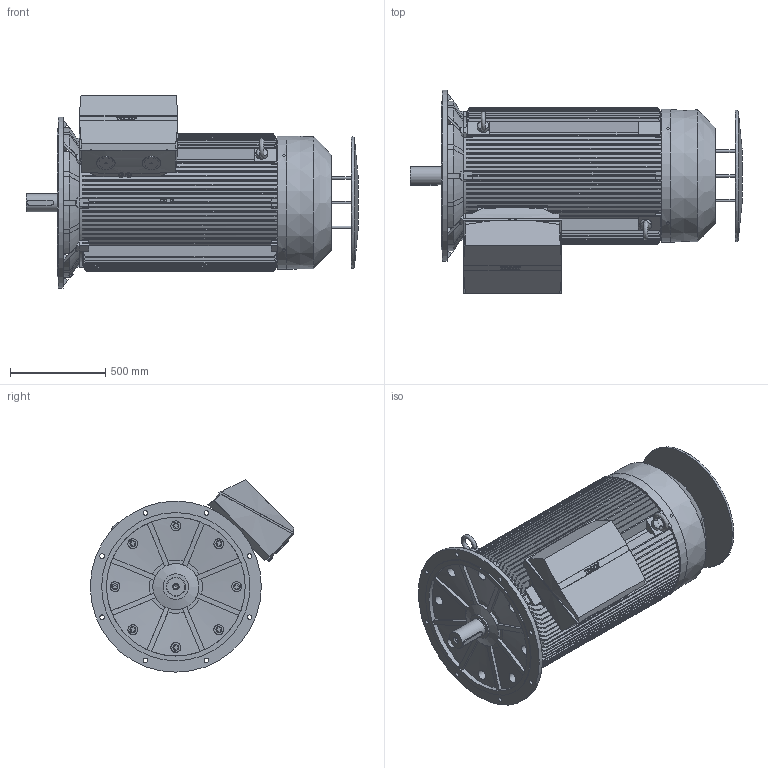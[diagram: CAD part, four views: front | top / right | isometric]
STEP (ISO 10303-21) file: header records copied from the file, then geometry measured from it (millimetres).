
FILE_DESCRIPTION (( 'STEP AP214' ), '1' );
FILE_NAME ('7RN355L06E34 IM3011+Rf_Rev.1A.STEP', '2018-10-29T15:11:33', ( 'rbc_ict' ), ( '' ), 'SwSTEP 2.0', 'SolidWorks 2015', '' );
FILE_SCHEMA (( 'AUTOMOTIVE_DESIGN' ));
Length unit declared in the file: millimetre
Products named in the file (1): 7RN355L06E34 IM3011+Rf_Rev.1A
Bounding box: 1747 x 1070.13 x 1012.15 mm (x, y, z)
Volume: 555948973.9 mm3; surface area: 13352654.2 mm2
Topology: 1 solids, 4 shells, 1211 faces, 3406 edges, 2247 vertices
Faces by surface type: plane 751, bspline 223, cylinder 217, cone 20
Full cylindrical faces by diameter (mm): 12 x4, 14 x4, 15 x2, 20 x1, 23 x2, 24 x10, 30 x8, 31 x2, 52 x8, 60 x2, 76 x2, 95 x1, 97 x2, 100 x1, 135 x1, 700 x1, 730 x1, 780 x1, 900 x1
Entity records: 62908 total; most frequent: CARTESIAN_POINT 21751, ORIENTED_EDGE 6632, DIRECTION 4905, EDGE_CURVE 3316, VERTEX_POINT 2222, VECTOR 1933, LINE 1933, AXIS2_PLACEMENT_3D 1486
